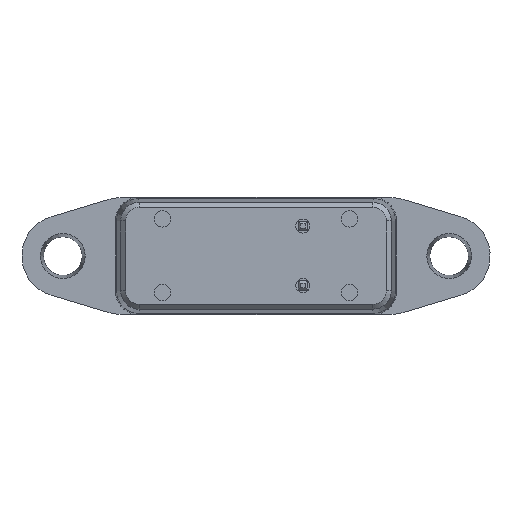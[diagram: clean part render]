
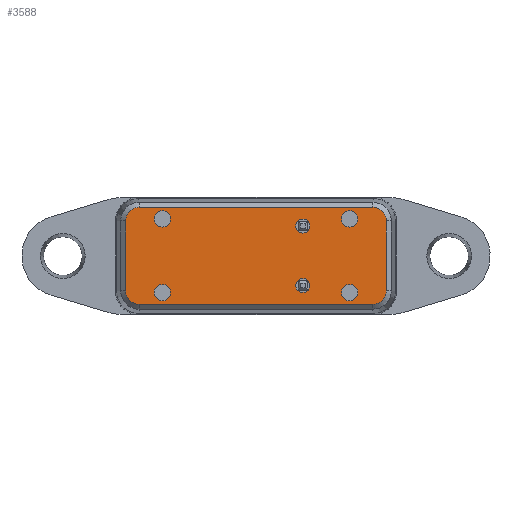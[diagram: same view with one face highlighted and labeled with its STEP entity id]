
A CAD part, top view. The second image highlights one B-rep face of the part: STEP entity #3588.
In plain terms, the highlighted planar face has unit normal (0, 0, 1).
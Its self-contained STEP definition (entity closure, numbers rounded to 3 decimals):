
#74=FACE_BOUND('',#1235,.T.);
#75=FACE_BOUND('',#1236,.T.);
#76=FACE_BOUND('',#1237,.T.);
#77=FACE_BOUND('',#1238,.T.);
#78=FACE_BOUND('',#1239,.T.);
#79=FACE_BOUND('',#1240,.T.);
#265=B_SPLINE_CURVE_WITH_KNOTS('',3,(#7623,#7624,#7625,#7626,#7627),
 .UNSPECIFIED.,.F.,.F.,(4,1,4),(2.357,3.029,3.926),
 .UNSPECIFIED.);
#267=B_SPLINE_CURVE_WITH_KNOTS('',3,(#7662,#7663,#7664,#7665,#7666),
 .UNSPECIFIED.,.F.,.F.,(4,1,4),(2.357,3.254,3.926),
 .UNSPECIFIED.);
#268=B_SPLINE_CURVE_WITH_KNOTS('',3,(#7696,#7697,#7698,#7699,#7700),
 .UNSPECIFIED.,.F.,.F.,(4,1,4),(-0.785,-0.112,0.785),
 .UNSPECIFIED.);
#270=B_SPLINE_CURVE_WITH_KNOTS('',3,(#7732,#7733,#7734,#7735,#7736),
 .UNSPECIFIED.,.F.,.F.,(4,1,4),(-0.785,0.112,0.785),
 .UNSPECIFIED.);
#459=LINE('',#7591,#679);
#464=LINE('',#7632,#684);
#468=LINE('',#7671,#688);
#472=LINE('',#7710,#692);
#679=VECTOR('',#4929,10.);
#684=VECTOR('',#4936,10.);
#688=VECTOR('',#4942,10.);
#692=VECTOR('',#4948,10.);
#990=FACE_OUTER_BOUND('',#1234,.T.);
#1234=EDGE_LOOP('',(#3217,#3218,#3219,#3220,#3221,#3222,#3223,#3224));
#1235=EDGE_LOOP('',(#3225));
#1236=EDGE_LOOP('',(#3226));
#1237=EDGE_LOOP('',(#3227));
#1238=EDGE_LOOP('',(#3228));
#1239=EDGE_LOOP('',(#3229));
#1240=EDGE_LOOP('',(#3230));
#1419=CIRCLE('',#4020,0.35);
#1420=CIRCLE('',#4021,0.35);
#1421=CIRCLE('',#4022,0.35);
#1422=CIRCLE('',#4023,0.35);
#1423=CIRCLE('',#4024,0.3);
#1424=CIRCLE('',#4025,0.3);
#1711=VERTEX_POINT('',#7588);
#1712=VERTEX_POINT('',#7590);
#1715=VERTEX_POINT('',#7621);
#1717=VERTEX_POINT('',#7630);
#1719=VERTEX_POINT('',#7660);
#1721=VERTEX_POINT('',#7669);
#1723=VERTEX_POINT('',#7694);
#1725=VERTEX_POINT('',#7708);
#1731=VERTEX_POINT('',#7761);
#1732=VERTEX_POINT('',#7763);
#1733=VERTEX_POINT('',#7765);
#1734=VERTEX_POINT('',#7767);
#1735=VERTEX_POINT('',#7769);
#1736=VERTEX_POINT('',#7771);
#2202=EDGE_CURVE('',#1711,#1712,#459,.T.);
#2207=EDGE_CURVE('',#1715,#1711,#265,.T.);
#2209=EDGE_CURVE('',#1717,#1715,#464,.T.);
#2213=EDGE_CURVE('',#1719,#1717,#267,.T.);
#2215=EDGE_CURVE('',#1721,#1719,#468,.T.);
#2218=EDGE_CURVE('',#1723,#1721,#268,.T.);
#2221=EDGE_CURVE('',#1725,#1723,#472,.T.);
#2223=EDGE_CURVE('',#1712,#1725,#270,.T.);
#2234=EDGE_CURVE('',#1731,#1731,#1419,.F.);
#2235=EDGE_CURVE('',#1732,#1732,#1420,.F.);
#2236=EDGE_CURVE('',#1733,#1733,#1421,.F.);
#2237=EDGE_CURVE('',#1734,#1734,#1422,.F.);
#2238=EDGE_CURVE('',#1735,#1735,#1423,.T.);
#2239=EDGE_CURVE('',#1736,#1736,#1424,.T.);
#3217=ORIENTED_EDGE('',*,*,#2202,.F.);
#3218=ORIENTED_EDGE('',*,*,#2207,.F.);
#3219=ORIENTED_EDGE('',*,*,#2209,.F.);
#3220=ORIENTED_EDGE('',*,*,#2213,.F.);
#3221=ORIENTED_EDGE('',*,*,#2215,.F.);
#3222=ORIENTED_EDGE('',*,*,#2218,.F.);
#3223=ORIENTED_EDGE('',*,*,#2221,.F.);
#3224=ORIENTED_EDGE('',*,*,#2223,.F.);
#3225=ORIENTED_EDGE('',*,*,#2234,.T.);
#3226=ORIENTED_EDGE('',*,*,#2235,.T.);
#3227=ORIENTED_EDGE('',*,*,#2236,.T.);
#3228=ORIENTED_EDGE('',*,*,#2237,.T.);
#3229=ORIENTED_EDGE('',*,*,#2238,.T.);
#3230=ORIENTED_EDGE('',*,*,#2239,.T.);
#3370=PLANE('',#4019);
#3588=ADVANCED_FACE('',(#990,#74,#75,#76,#77,#78,#79),#3370,.T.);
#4019=AXIS2_PLACEMENT_3D('',#7760,#4969,#4970);
#4020=AXIS2_PLACEMENT_3D('',#7762,#4971,#4972);
#4021=AXIS2_PLACEMENT_3D('',#7764,#4973,#4974);
#4022=AXIS2_PLACEMENT_3D('',#7766,#4975,#4976);
#4023=AXIS2_PLACEMENT_3D('',#7768,#4977,#4978);
#4024=AXIS2_PLACEMENT_3D('',#7770,#4979,#4980);
#4025=AXIS2_PLACEMENT_3D('',#7772,#4981,#4982);
#4929=DIRECTION('',(0.,-1.,0.));
#4936=DIRECTION('',(1.,0.,0.));
#4942=DIRECTION('',(0.,1.,0.));
#4948=DIRECTION('',(-1.,0.,0.));
#4969=DIRECTION('center_axis',(0.,0.,1.));
#4970=DIRECTION('ref_axis',(-1.,0.,0.));
#4971=DIRECTION('center_axis',(0.,0.,1.));
#4972=DIRECTION('ref_axis',(-1.,0.,0.));
#4973=DIRECTION('center_axis',(0.,0.,1.));
#4974=DIRECTION('ref_axis',(-1.,0.,0.));
#4975=DIRECTION('center_axis',(0.,0.,1.));
#4976=DIRECTION('ref_axis',(-1.,0.,0.));
#4977=DIRECTION('center_axis',(0.,0.,1.));
#4978=DIRECTION('ref_axis',(-1.,0.,0.));
#4979=DIRECTION('center_axis',(0.,0.,-1.));
#4980=DIRECTION('ref_axis',(-1.,0.,0.));
#4981=DIRECTION('center_axis',(0.,0.,-1.));
#4982=DIRECTION('ref_axis',(-1.,0.,0.));
#7588=CARTESIAN_POINT('',(5.571,1.491,8.24));
#7590=CARTESIAN_POINT('',(5.571,-1.491,8.24));
#7591=CARTESIAN_POINT('',(5.571,0.75,8.24));
#7621=CARTESIAN_POINT('',(4.991,2.071,8.24));
#7623=CARTESIAN_POINT('Ctrl Pts',(4.991,2.071,8.24));
#7624=CARTESIAN_POINT('Ctrl Pts',(5.121,2.071,8.24));
#7625=CARTESIAN_POINT('Ctrl Pts',(5.426,1.965,8.24));
#7626=CARTESIAN_POINT('Ctrl Pts',(5.571,1.665,8.24));
#7627=CARTESIAN_POINT('Ctrl Pts',(5.571,1.491,8.24));
#7630=CARTESIAN_POINT('',(-4.991,2.071,8.24));
#7632=CARTESIAN_POINT('',(-2.5,2.071,8.24));
#7660=CARTESIAN_POINT('',(-5.571,1.491,8.24));
#7662=CARTESIAN_POINT('Ctrl Pts',(-5.571,1.491,8.24));
#7663=CARTESIAN_POINT('Ctrl Pts',(-5.571,1.665,8.24));
#7664=CARTESIAN_POINT('Ctrl Pts',(-5.426,1.965,8.24));
#7665=CARTESIAN_POINT('Ctrl Pts',(-5.121,2.071,8.24));
#7666=CARTESIAN_POINT('Ctrl Pts',(-4.991,2.071,8.24));
#7669=CARTESIAN_POINT('',(-5.571,-1.491,8.24));
#7671=CARTESIAN_POINT('',(-5.571,-0.75,8.24));
#7694=CARTESIAN_POINT('',(-4.991,-2.071,8.24));
#7696=CARTESIAN_POINT('Ctrl Pts',(-4.991,-2.071,8.24));
#7697=CARTESIAN_POINT('Ctrl Pts',(-5.121,-2.071,8.24));
#7698=CARTESIAN_POINT('Ctrl Pts',(-5.426,-1.965,8.24));
#7699=CARTESIAN_POINT('Ctrl Pts',(-5.571,-1.665,8.24));
#7700=CARTESIAN_POINT('Ctrl Pts',(-5.571,-1.491,8.24));
#7708=CARTESIAN_POINT('',(4.991,-2.071,8.24));
#7710=CARTESIAN_POINT('',(2.5,-2.071,8.24));
#7732=CARTESIAN_POINT('Ctrl Pts',(5.571,-1.491,8.24));
#7733=CARTESIAN_POINT('Ctrl Pts',(5.571,-1.665,8.24));
#7734=CARTESIAN_POINT('Ctrl Pts',(5.426,-1.965,8.24));
#7735=CARTESIAN_POINT('Ctrl Pts',(5.121,-2.071,8.24));
#7736=CARTESIAN_POINT('Ctrl Pts',(4.991,-2.071,8.24));
#7760=CARTESIAN_POINT('Origin',(0.,0.,
8.24));
#7761=CARTESIAN_POINT('',(-3.65,1.575,8.24));
#7762=CARTESIAN_POINT('Origin',(-4.,1.575,8.24));
#7763=CARTESIAN_POINT('',(-3.65,-1.575,8.24));
#7764=CARTESIAN_POINT('Origin',(-4.,-1.575,8.24));
#7765=CARTESIAN_POINT('',(4.35,-1.575,8.24));
#7766=CARTESIAN_POINT('Origin',(4.,-1.575,8.24));
#7767=CARTESIAN_POINT('',(4.35,1.575,8.24));
#7768=CARTESIAN_POINT('Origin',(4.,1.575,8.24));
#7769=CARTESIAN_POINT('',(2.3,-1.27,8.24));
#7770=CARTESIAN_POINT('Origin',(2.,-1.27,8.24));
#7771=CARTESIAN_POINT('',(2.3,1.27,8.24));
#7772=CARTESIAN_POINT('Origin',(2.,1.27,8.24));
